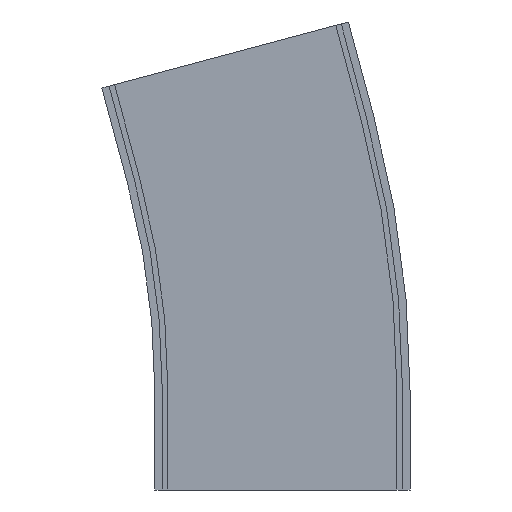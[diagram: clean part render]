
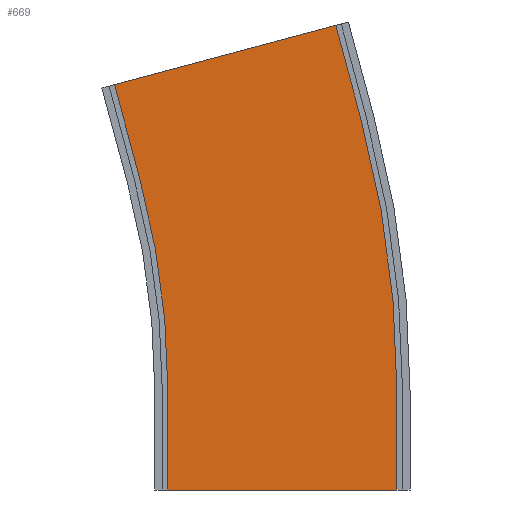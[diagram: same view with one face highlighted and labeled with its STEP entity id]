
A CAD part, left-side view. The second image highlights one B-rep face of the part: STEP entity #669.
In plain terms, the highlighted planar face has unit normal (-1, 0, 0).
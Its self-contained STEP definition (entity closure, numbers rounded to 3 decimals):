
#1 = EDGE_CURVE ( 'NONE', #1397, #813, #1161, .T. ) ;
#10 = CIRCLE ( 'NONE', #12, 561.25 ) ;
#12 = AXIS2_PLACEMENT_3D ( 'NONE', #433, #1410, #208 ) ;
#39 = ORIENTED_EDGE ( 'NONE', *, *, #372, .F. ) ;
#52 = CARTESIAN_POINT ( 'NONE',  ( -325.25, -61.25, 0. ) ) ;
#72 = CARTESIAN_POINT ( 'NONE',  ( -325.25, 61.25, 52.5 ) ) ;
#74 = DIRECTION ( 'NONE',  ( 0., 0., 1. ) ) ;
#118 = DIRECTION ( 'NONE',  ( 0., -0.966, 0.259 ) ) ;
#167 = AXIS2_PLACEMENT_3D ( 'NONE', #566, #924, #1121 ) ;
#176 = DIRECTION ( 'NONE',  ( -1., 0., 0. ) ) ;
#196 = VERTEX_POINT ( 'NONE', #52 ) ;
#208 = DIRECTION ( 'NONE',  ( 0., 0., 1. ) ) ;
#230 = CARTESIAN_POINT ( 'NONE',  ( -325.25, 76.2, 166.057 ) ) ;
#304 = ORIENTED_EDGE ( 'NONE', *, *, #1257, .T. ) ;
#343 = LINE ( 'NONE', #766, #671 ) ;
#348 = LINE ( 'NONE', #1263, #1406 ) ;
#372 = EDGE_CURVE ( 'NONE', #1248, #404, #854, .T. ) ;
#401 = EDGE_CURVE ( 'NONE', #1271, #196, #1246, .T. ) ;
#404 = VERTEX_POINT ( 'NONE', #502 ) ;
#433 = CARTESIAN_POINT ( 'NONE',  ( -325.25, 500., 52.5 ) ) ;
#469 = EDGE_CURVE ( 'NONE', #933, #196, #348, .T. ) ;
#471 = CARTESIAN_POINT ( 'NONE',  ( -325.25, -28.538, 248.473 ) ) ;
#502 = CARTESIAN_POINT ( 'NONE',  ( -325.25, 76.2, 166.057 ) ) ;
#511 = ORIENTED_EDGE ( 'NONE', *, *, #469, .F. ) ;
#566 = CARTESIAN_POINT ( 'NONE',  ( -325.25, -61.25, 52.5 ) ) ;
#567 = LINE ( 'NONE', #72, #865 ) ;
#580 = EDGE_CURVE ( 'NONE', #933, #1397, #10, .T. ) ;
#588 = VECTOR ( 'NONE', #1219, 1000. ) ;
#608 = CARTESIAN_POINT ( 'NONE',  ( -325.25, 61.25, 0. ) ) ;
#613 = ORIENTED_EDGE ( 'NONE', *, *, #580, .T. ) ;
#630 = DIRECTION ( 'NONE',  ( 0., -1., 0. ) ) ;
#669 = ADVANCED_FACE ( 'NONE', ( #1075 ), #1003, .F. ) ;
#671 = VECTOR ( 'NONE', #118, 1000. ) ;
#714 = DIRECTION ( 'NONE',  ( 0., 0., -1. ) ) ;
#726 = VERTEX_POINT ( 'NONE', #1217 ) ;
#750 = ORIENTED_EDGE ( 'NONE', *, *, #1082, .F. ) ;
#763 = AXIS2_PLACEMENT_3D ( 'NONE', #827, #176, #74 ) ;
#766 = CARTESIAN_POINT ( 'NONE',  ( -325.25, -28.538, 248.473 ) ) ;
#813 = VERTEX_POINT ( 'NONE', #471 ) ;
#827 = CARTESIAN_POINT ( 'NONE',  ( -325.25, 500., 52.5 ) ) ;
#833 = CARTESIAN_POINT ( 'NONE',  ( -325.25, -61.25, 52.5 ) ) ;
#840 = CARTESIAN_POINT ( 'NONE',  ( -325.25, -42.126, 197.762 ) ) ;
#854 = CIRCLE ( 'NONE', #763, 438.75 ) ;
#865 = VECTOR ( 'NONE', #714, 1000. ) ;
#898 = ORIENTED_EDGE ( 'NONE', *, *, #1, .T. ) ;
#920 = ORIENTED_EDGE ( 'NONE', *, *, #1155, .F. ) ;
#924 = DIRECTION ( 'NONE',  ( 1., 0., 0. ) ) ;
#933 = VERTEX_POINT ( 'NONE', #833 ) ;
#987 = DIRECTION ( 'NONE',  ( 0., 0.259, 0.966 ) ) ;
#988 = ORIENTED_EDGE ( 'NONE', *, *, #401, .T. ) ;
#1003 = PLANE ( 'NONE',  #167 ) ;
#1035 = CARTESIAN_POINT ( 'NONE',  ( -325.25, 61.25, 52.5 ) ) ;
#1054 = CARTESIAN_POINT ( 'NONE',  ( -325.25, -61.25, 0. ) ) ;
#1075 = FACE_OUTER_BOUND ( 'NONE', #1398, .T. ) ;
#1082 = EDGE_CURVE ( 'NONE', #726, #813, #343, .T. ) ;
#1103 = VECTOR ( 'NONE', #987, 1000. ) ;
#1121 = DIRECTION ( 'NONE',  ( 0., 0., -1. ) ) ;
#1155 = EDGE_CURVE ( 'NONE', #404, #726, #1401, .T. ) ;
#1161 = LINE ( 'NONE', #1233, #588 ) ;
#1177 = VECTOR ( 'NONE', #630, 1000. ) ;
#1217 = CARTESIAN_POINT ( 'NONE',  ( -325.25, 89.788, 216.768 ) ) ;
#1219 = DIRECTION ( 'NONE',  ( 0., 0.259, 0.966 ) ) ;
#1233 = CARTESIAN_POINT ( 'NONE',  ( -325.25, -42.126, 197.762 ) ) ;
#1246 = LINE ( 'NONE', #1054, #1177 ) ;
#1248 = VERTEX_POINT ( 'NONE', #1035 ) ;
#1257 = EDGE_CURVE ( 'NONE', #1248, #1271, #567, .T. ) ;
#1263 = CARTESIAN_POINT ( 'NONE',  ( -325.25, -61.25, 52.5 ) ) ;
#1271 = VERTEX_POINT ( 'NONE', #608 ) ;
#1388 = DIRECTION ( 'NONE',  ( 0., 0., -1. ) ) ;
#1397 = VERTEX_POINT ( 'NONE', #840 ) ;
#1398 = EDGE_LOOP ( 'NONE', ( #988, #511, #613, #898, #750, #920, #39, #304 ) ) ;
#1401 = LINE ( 'NONE', #230, #1103 ) ;
#1406 = VECTOR ( 'NONE', #1388, 1000. ) ;
#1410 = DIRECTION ( 'NONE',  ( -1., 0., 0. ) ) ;
